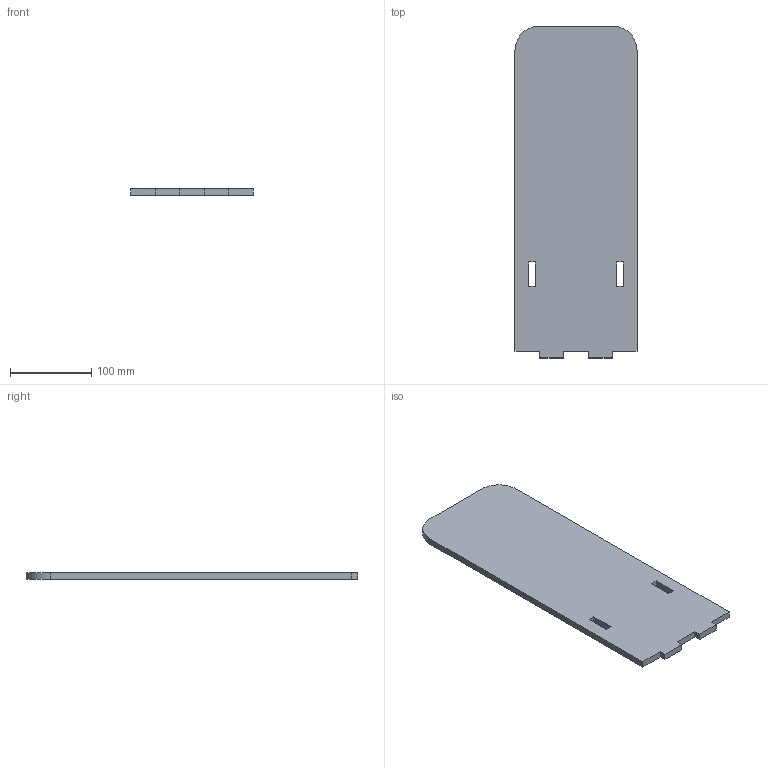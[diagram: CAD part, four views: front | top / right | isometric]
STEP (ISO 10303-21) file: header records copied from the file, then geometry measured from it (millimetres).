
FILE_DESCRIPTION(/* description */ (''),/* implementation_level */ '2;1');
FILE_NAME(/* name */ 'Holder_part_5b_ver_2.step',/* time_stamp */ '2026-07-24T14:34:47+02:00',/* author */ ('dariu'),/* organization */ (''),/* preprocessor_version */ 'ST-DEVELOPER v20.1',/* originating_system */ 'Autodesk Inventor 2026',/* authorisation */ '');
FILE_SCHEMA (('AUTOMOTIVE_DESIGN { 1 0 10303 214 3 1 1 }'));
Length unit declared in the file: millimetre
Products named in the file (1): Holder_part_5b_ver_2
Bounding box: 150 x 408 x 8 mm (x, y, z)
Volume: 476685.7 mm3; surface area: 129243.8 mm2
Topology: 1 solids, 1 shells, 24 faces, 66 edges, 44 vertices
Faces by surface type: plane 22, cylinder 2
Entity records: 805 total; most frequent: CARTESIAN_POINT 135, ORIENTED_EDGE 132, DIRECTION 120, EDGE_CURVE 66, LINE 62, VECTOR 62, VERTEX_POINT 44, AXIS2_PLACEMENT_3D 29
